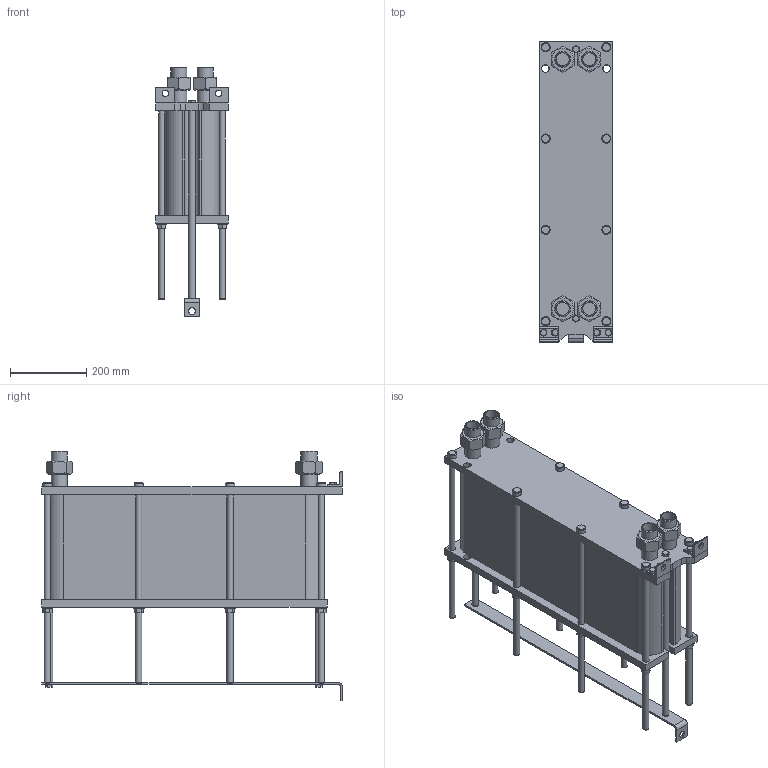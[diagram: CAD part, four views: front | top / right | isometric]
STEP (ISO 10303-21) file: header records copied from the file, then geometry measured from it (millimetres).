
FILE_DESCRIPTION(/* description */ (''),/* implementation_level */ '2;1');
FILE_NAME(/* name */ 'C:\Users\zhuro\Desktop\ENCO\TO\ЭН-008\ЭН-0,5-008-89-1.stp',/* time_stamp */ '2022-06-06T10:53:36+03:00',/* author */ ('zhuro'),/* organization */ (''),/* preprocessor_version */ 'ST-DEVELOPER v18.1',/* originating_system */ 'Autodesk Inventor 2022',/* authorisation */ '');
FILE_SCHEMA (('AUTOMOTIVE_DESIGN { 1 0 10303 214 3 1 1 }'));
Length unit declared in the file: millimetre
Products named in the file (1): ЭН-0,5-008-89-1
Bounding box: 190 x 790 x 656.2 mm (x, y, z)
Volume: 35048756.7 mm3; surface area: 1928477.7 mm2
Topology: 40 solids, 40 shells, 428 faces, 924 edges, 606 vertices
Faces by surface type: plane 273, cylinder 109, cone 40, torus 6
Full cylindrical faces by diameter (mm): 12 x6, 14 x2, 16 x20, 17 x8, 18 x19, 20 x5, 24 x8, 28 x8, 34.3 x8, 42.3 x8
Entity records: 15843 total; most frequent: CARTESIAN_POINT 5991, DIRECTION 1984, ORIENTED_EDGE 1848, EDGE_CURVE 924, AXIS2_PLACEMENT_3D 715, VERTEX_POINT 606, LINE 554, VECTOR 554
